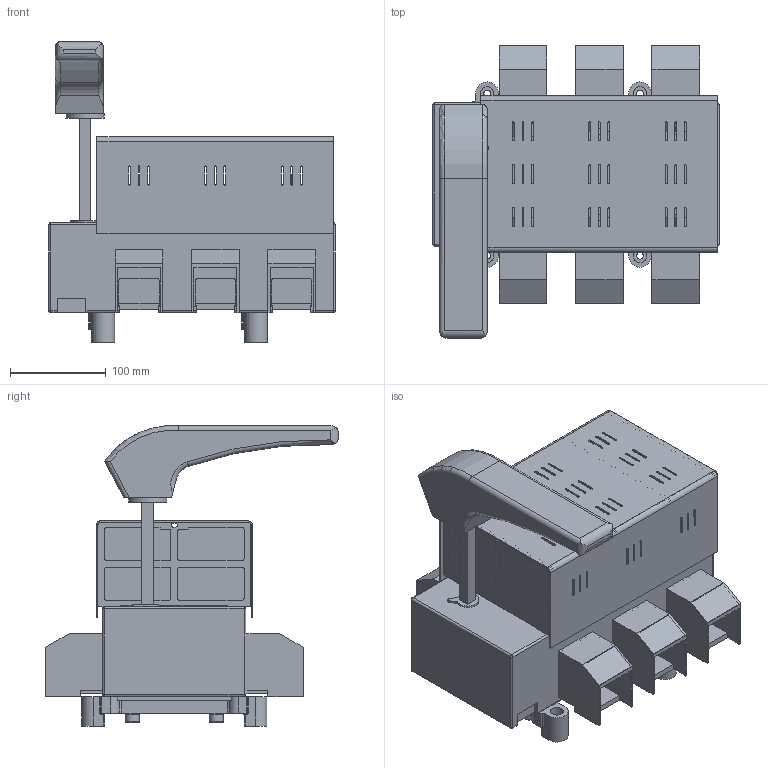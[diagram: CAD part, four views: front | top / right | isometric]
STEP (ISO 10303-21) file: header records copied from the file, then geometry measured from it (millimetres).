
FILE_DESCRIPTION(/* description */ (''),/* implementation_level */ '2;1');
FILE_NAME(/* name */ 'RAB 3 P3-R z oslona zaciskow.stp',/* time_stamp */ '2021-08-19T14:39:15+02:00',/* author */ (''),/* organization */ (''),/* preprocessor_version */ 'ST-DEVELOPER v18.1',/* originating_system */ 'SIEMENS PLM Software NX 1965',/* authorisation */ '');
FILE_SCHEMA (('AUTOMOTIVE_DESIGN { 1 0 10303 214 3 1 1 1 }'));
Length unit declared in the file: millimetre
Products named in the file (1): RAB 3 P3-R z oslona zaciskow_stp
Bounding box: 300 x 307 x 314.5 mm (x, y, z)
Volume: 5029915.3 mm3; surface area: 805590.6 mm2
Topology: 1 solids, 13 shells, 1722 faces, 4692 edges, 3015 vertices
Faces by surface type: plane 1044, cylinder 562, torus 50, bspline 50, cone 8, sphere 8
Full cylindrical faces by diameter (mm): 3 x4, 4.8 x4, 5.6 x4, 6.5 x26, 7 x4, 10.5 x26, 13 x6, 13.5 x4, 14 x4, 15 x4, 40 x1
Entity records: 56225 total; most frequent: CARTESIAN_POINT 12495, ORIENTED_EDGE 9082, DIRECTION 8980, EDGE_CURVE 4541, LINE 3180, VECTOR 3180, VERTEX_POINT 2987, AXIS2_PLACEMENT_3D 2900
